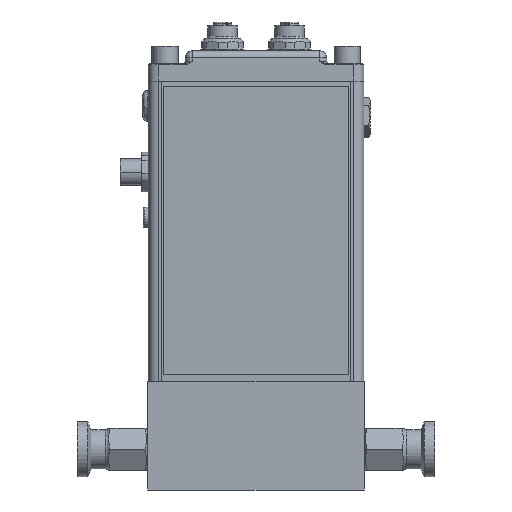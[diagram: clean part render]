
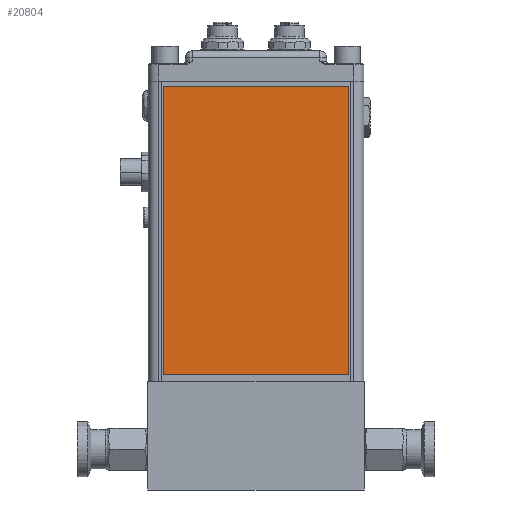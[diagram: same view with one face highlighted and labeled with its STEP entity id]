
A CAD part, front view. The second image highlights one B-rep face of the part: STEP entity #20804.
In plain terms, the highlighted planar face has unit normal (0, -1, 0).
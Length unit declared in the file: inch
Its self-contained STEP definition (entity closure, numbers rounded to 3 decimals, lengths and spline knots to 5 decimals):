
#1283 = VERTEX_POINT ( 'NONE', #7283 ) ;
#4752 = VERTEX_POINT ( 'NONE', #43358 ) ;
#5139 = EDGE_CURVE ( 'NONE', #1283, #59998, #20046, .T. ) ;
#7283 = CARTESIAN_POINT ( 'NONE',  ( 2.94032, -0.24946, 1.12514 ) ) ;
#8728 = ORIENTED_EDGE ( 'NONE', *, *, #38288, .T. ) ;
#10185 = CARTESIAN_POINT ( 'NONE',  ( 2.94032, -0.24946, 1.12514 ) ) ;
#11973 = LINE ( 'NONE', #30510, #23610 ) ;
#13461 = DIRECTION ( 'NONE',  ( 1., 0., 0. ) ) ;
#14331 = ORIENTED_EDGE ( 'NONE', *, *, #22406, .T. ) ;
#14964 = FACE_OUTER_BOUND ( 'NONE', #34133, .T. ) ;
#16321 = AXIS2_PLACEMENT_3D ( 'NONE', #60828, #37292, #51556 ) ;
#20046 = LINE ( 'NONE', #10185, #55403 ) ;
#20804 = ADVANCED_FACE ( 'NONE', ( #14964 ), #52772, .T. ) ;
#22406 = EDGE_CURVE ( 'NONE', #52854, #1283, #50641, .T. ) ;
#23467 = DIRECTION ( 'NONE',  ( 0., 0., 1. ) ) ;
#23610 = VECTOR ( 'NONE', #59620, 39.37008 ) ;
#26186 = CARTESIAN_POINT ( 'NONE',  ( 1.27532, -0.2497, 1.12514 ) ) ;
#26944 = CARTESIAN_POINT ( 'NONE',  ( 2.94032, -0.24946, 6.29514 ) ) ;
#30510 = CARTESIAN_POINT ( 'NONE',  ( -0.38968, -0.24993, 1.12514 ) ) ;
#31305 = VECTOR ( 'NONE', #55493, 39.37008 ) ;
#34133 = EDGE_LOOP ( 'NONE', ( #8728, #14331, #57906, #40358 ) ) ;
#37292 = DIRECTION ( 'NONE',  ( 0., -1., 0. ) ) ;
#38288 = EDGE_CURVE ( 'NONE', #4752, #52854, #11973, .T. ) ;
#40358 = ORIENTED_EDGE ( 'NONE', *, *, #56755, .T. ) ;
#41274 = LINE ( 'NONE', #46521, #31305 ) ;
#43358 = CARTESIAN_POINT ( 'NONE',  ( -0.38968, -0.24993, 6.29514 ) ) ;
#46521 = CARTESIAN_POINT ( 'NONE',  ( 1.27532, -0.2497, 6.29514 ) ) ;
#47819 = CARTESIAN_POINT ( 'NONE',  ( -0.38968, -0.24993, 1.12514 ) ) ;
#48349 = VECTOR ( 'NONE', #13461, 39.37008 ) ;
#50641 = LINE ( 'NONE', #26186, #48349 ) ;
#51556 = DIRECTION ( 'NONE',  ( 0., 0., -1. ) ) ;
#52772 = PLANE ( 'NONE',  #16321 ) ;
#52854 = VERTEX_POINT ( 'NONE', #47819 ) ;
#55403 = VECTOR ( 'NONE', #23467, 39.37008 ) ;
#55493 = DIRECTION ( 'NONE',  ( -1., 0., 0. ) ) ;
#56755 = EDGE_CURVE ( 'NONE', #59998, #4752, #41274, .T. ) ;
#57906 = ORIENTED_EDGE ( 'NONE', *, *, #5139, .T. ) ;
#59620 = DIRECTION ( 'NONE',  ( 0., 0., -1. ) ) ;
#59998 = VERTEX_POINT ( 'NONE', #26944 ) ;
#60828 = CARTESIAN_POINT ( 'NONE',  ( 1.27532, -0.2497, 1.12514 ) ) ;
